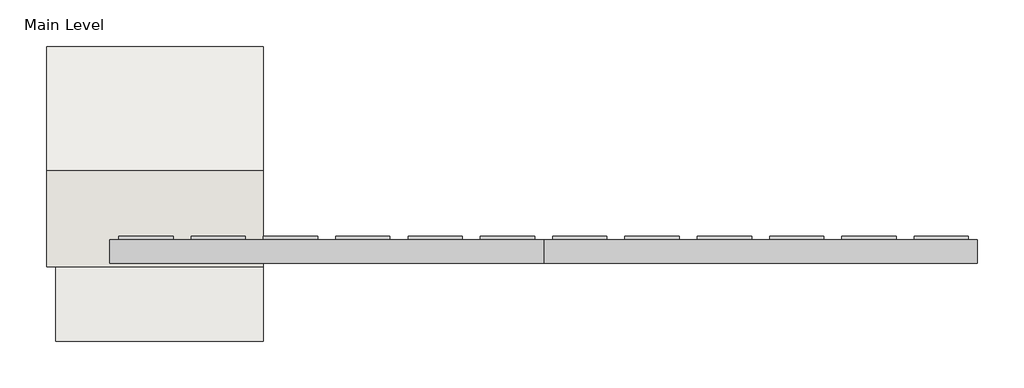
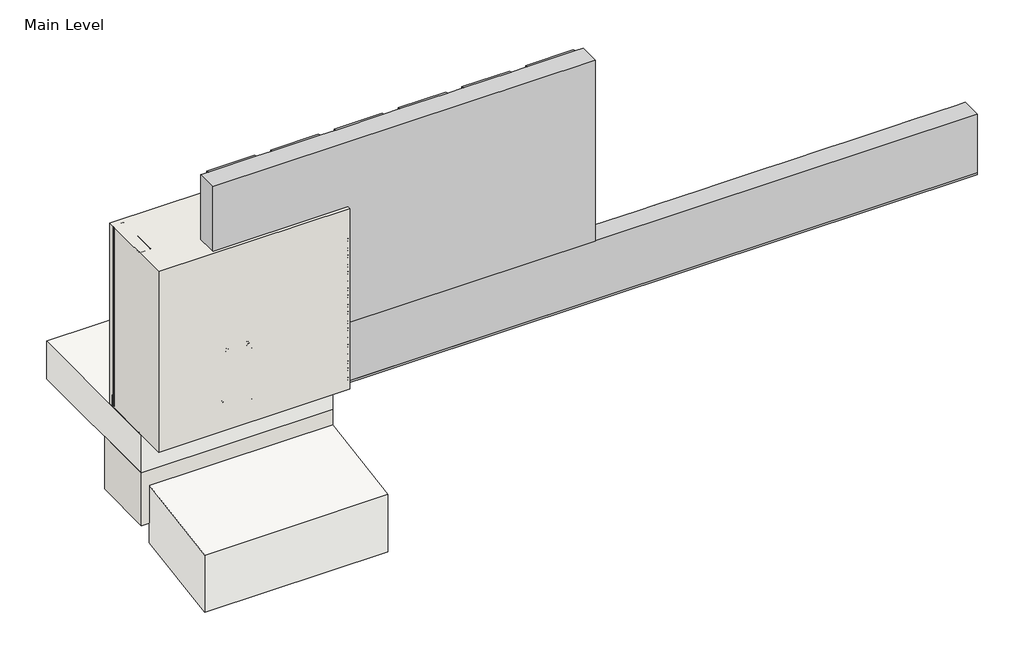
# One storey, incomplete: 10 proxies, 2 slabs, 2 walls.
"""IFC4 building model written with IfcOpenShell, lengths in millimetres."""

from ifc_helpers import new_model, si_unit, frame, origin, origin_with_axes, place, context, project, spatial, polyline, outline, extrude, transform, mapped, element, save
from components import generic_models_31547c53, generic_models_0bbfdc8f, generic_models_1e1ad44f, generic_models_7dd17a53, generic_models_441de798, generic_models_9d0e7a2a, generic_models_8c792c9c, proxy_215900e5, proxy_691c8b69, wood_blocking_c9818c35

model = new_model("IFC4")

# Units and contexts
model_context = context("Model", 3, world=origin())
ifc_project = project(units=[si_unit("LENGTHUNIT", "METRE", prefix="MILLI")], contexts=[model_context])

# Site, building, storey
site = spatial("IfcSite", under=ifc_project)
building = spatial("IfcBuilding", under=site)
storey = spatial("IfcBuildingStorey", under=building, Name="Main Level", Elevation=0.0)

# Proxies
placement = place(None, origin())
generic_models_shape = generic_models_31547c53(model_context)
element("IfcBuildingElementProxy", 1, Name="Durabond Generic Model Sealant Vent : Durabond Generic Model Sealant Vent", ObjectType="Durabond Generic Model Sealant Vent : Durabond Generic Model Sealant Vent", at=placement, inside=storey, context=model_context, shape_type="MappedRepresentation", body=[
    mapped(generic_models_shape, transform((26865.4101773, 546.8432813, 8.5594788), x_axis=(1.0, 0.0, 0.0), y_axis=(0.0, 0.08715574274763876, -0.9961946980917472), z_axis=(0.0, 0.9961946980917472, 0.08715574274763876))),
])
generic_models_2_shape = generic_models_0bbfdc8f(model_context)
generic_models_3_shape = generic_models_1e1ad44f(model_context)
generic_models_4_shape = generic_models_7dd17a53(model_context)
generic_models_5_shape = generic_models_441de798(model_context)
element("IfcBuildingElementProxy", 2, Name="CRAi Generic Model Mesh Piece Face Based : CRAi Generic Model Mesh Piece Face Based", ObjectType="CRAi Generic Model Mesh Piece Face Based : CRAi Generic Model Mesh Piece Face Based", at=placement, inside=storey, context=model_context, shape_type="MappedRepresentation", body=[
    mapped(generic_models_2_shape, transform((26933.6726773, 541.9066297, 261.6963215), x_axis=(-1.0, 0.0, 0.0), y_axis=(0.0, 0.0, -1.0), z_axis=(0.0, -1.0, 0.0))),
    mapped(generic_models_3_shape, transform((26933.6726773, 541.9066297, 261.6963215), x_axis=(-1.0, 0.0, 0.0), y_axis=(0.0, 0.0, -1.0), z_axis=(0.0, -1.0, 0.0))),
    mapped(generic_models_4_shape, transform((26933.6726773, 541.9066297, 261.6963215), x_axis=(-1.0, 0.0, 0.0), y_axis=(0.0, 0.0, -1.0), z_axis=(0.0, -1.0, 0.0))),
    mapped(generic_models_5_shape, transform((26933.6726773, 541.9066297, 261.6963215), x_axis=(-1.0, 0.0, 0.0), y_axis=(0.0, 0.0, -1.0), z_axis=(0.0, -1.0, 0.0))),
])
generic_models_6_shape = generic_models_9d0e7a2a(model_context)
element("IfcBuildingElementProxy", 3, Name="CRAi Generic Model Metal Stud Array : CRAi Generic Model Metal Stud Array", ObjectType="CRAi Generic Model Metal Stud Array : CRAi Generic Model Metal Stud Array", at=placement, inside=storey, context=model_context, shape_type="MappedRepresentation", body=[
    mapped(generic_models_6_shape, transform((26692.3726773, 719.7066297, 6.35), x_axis=(-1.0, 0.0, 0.0), y_axis=(0.0, -1.0, 0.0), z_axis=(0.0, 0.0, 1.0))),
])
generic_models_7_shape = generic_models_8c792c9c(model_context)
element("IfcBuildingElementProxy", 4, Name="Durabond Generic Model Screw w Standard Wall Plate : Durabond Generic Model Screw w Standard Wall Plate", ObjectType="Durabond Generic Model Screw w Standard Wall Plate : Durabond Generic Model Screw w Standard Wall Plate", at=placement, inside=storey, context=model_context, shape_type="MappedRepresentation", body=[
    mapped(generic_models_7_shape, transform((26781.2726773, 544.2878797, 85.242643), x_axis=(1.0, 0.0, 0.0), y_axis=(0.0, 0.0, 1.0), z_axis=(0.0, -1.0, 0.0))),
])
element("IfcBuildingElementProxy", 5, Name="Durabond Generic Model Screw w Standard Wall Plate : Durabond Generic Model Screw w Standard Wall Plate", ObjectType="Durabond Generic Model Screw w Standard Wall Plate : Durabond Generic Model Screw w Standard Wall Plate", at=placement, inside=storey, context=model_context, shape_type="MappedRepresentation", body=[
    mapped(generic_models_7_shape, transform((26781.2726773, 544.2878797, 256.692643), x_axis=(1.0, 0.0, 0.0), y_axis=(0.0, 0.0, 1.0), z_axis=(0.0, -1.0, 0.0))),
])
element("IfcBuildingElementProxy", 6, Name="Durabond Generic Model Screw w Standard Wall Plate : Durabond Generic Model Screw w Standard Wall Plate", ObjectType="Durabond Generic Model Screw w Standard Wall Plate : Durabond Generic Model Screw w Standard Wall Plate", at=placement, inside=storey, context=model_context, shape_type="MappedRepresentation", body=[
    mapped(generic_models_7_shape, transform((26703.4851773, 547.4628797, 85.242643), x_axis=(1.0, 0.0, 0.0), y_axis=(0.0, 0.0, 1.0), z_axis=(0.0, -1.0, 0.0))),
])
element("IfcBuildingElementProxy", 7, Name="Durabond Generic Model Screw w Standard Wall Plate : Durabond Generic Model Screw w Standard Wall Plate", ObjectType="Durabond Generic Model Screw w Standard Wall Plate : Durabond Generic Model Screw w Standard Wall Plate", at=placement, inside=storey, context=model_context, shape_type="MappedRepresentation", body=[
    mapped(generic_models_7_shape, transform((26716.1851773, 547.4628797, 256.692643), x_axis=(1.0, 0.0, 0.0), y_axis=(0.0, 0.0, 1.0), z_axis=(0.0, -1.0, 0.0))),
])
proxy_shape = proxy_215900e5(model_context)
element("IfcBuildingElementProxy", 8, Name="Durabond Generic Model Insulite Select Extruded Insulation Board : 3\"", ObjectType="Durabond Generic Model Insulite Select Extruded Insulation Board : 3\"", at=placement, inside=storey, context=model_context, shape_type="MappedRepresentation", body=[
    mapped(proxy_shape, transform((27276.5726773, 624.4566297, 523.392643), x_axis=(1.0, 0.0, 0.0), y_axis=(0.0, 0.0, 1.0), z_axis=(0.0, -1.0, 0.0))),
])
proxy_2_shape = proxy_691c8b69(model_context)
element("IfcBuildingElementProxy", 9, Name="Durabond Generic Model Insulite Select Extruded Vent Board : 3\"", ObjectType="Durabond Generic Model Insulite Select Extruded Vent Board : 3\"", at=placement, inside=storey, context=model_context, shape_type="MappedRepresentation", body=[
    mapped(proxy_2_shape, transform((27886.1726773, 624.4566297, 116.992643), x_axis=(1.0, 0.0, 0.0), y_axis=(0.0, 0.0, 1.0), z_axis=(0.0, -1.0, 0.0))),
])
wood_blocking_shape = wood_blocking_c9818c35(model_context)
element("IfcBuildingElementProxy", 10, Name="CRAi Generic Model Line Based Metal Framing Track : Wood Blocking", ObjectType="CRAi Generic Model Line Based Metal Framing Track : Wood Blocking", at=placement, inside=storey, context=model_context, shape_type="MappedRepresentation", body=[
    mapped(wood_blocking_shape, transform((26489.1726773, 643.5066297, 0.0), x_axis=(1.0, 0.0, 0.0), y_axis=(0.0, 1.0, 0.0), z_axis=(0.0, 0.0, 1.0))),
])

# Slabs
element("IfcSlab", 11, ObjectType="Durabond Floor Concrete 5\"", at=placement, inside=storey, context=model_context, shape_type="SweptSolid", body=[
    extrude(outline(polyline([(27098.7726773, 633.9816297), (26489.1726773, 633.9816297), (26489.1726773, 1157.8566297), (27098.7726773, 1157.8566297), (27098.7726773, 633.9816297)])), frame((0.0, 0.0, -127.0), z_axis=(0.0, 0.0, 1.0), x_axis=(1.0, 0.0, 0.0)), (0.0, 0.0, 1.0), 127.0),
])
element("IfcSlab", 12, ObjectType="dIRT", at=placement, inside=storey, context=model_context, shape_type="SweptSolid", body=[
    extrude(outline(polyline([(633.9816297, -370.9277103), (329.1816297, -421.7277103), (329.1816297, -228.6), (633.9816297, -177.8), (633.9816297, -370.9277103)])), frame((26514.5726773, 0.0, 0.0), z_axis=(1.0, 0.0, 0.0), x_axis=(0.0, 1.0, 0.0)), (0.0, 0.0, 1.0), 584.2),
])

# Walls
element("IfcWall", 13, ObjectType="189mm (7.5”) EIFS Field Applied on Mtl. Stud Layer - 50mm Grooved Insulation Board Metal Stud Wall(AirStop) 2", at=placement, inside=storey, context=model_context, shape_type="SweptSolid", body=[
    extrude(outline(polyline([(27098.7726773, 538.7316297), (26489.1726773, 538.7316297), (26489.1726773, 808.6066297), (27098.7726773, 808.6066297), (27098.7726773, 538.7316297)])), origin_with_axes(), (0.0, 0.0, 1.0), 609.6),
])
element("IfcWall", 14, ObjectType="CRAi Generic 8\"", at=placement, inside=storey, context=model_context, shape_type="SweptSolid", body=[
    extrude(outline(polyline([(27098.7726773, 633.9816297), (26489.1726773, 633.9816297), (26489.1726773, 837.1816297), (27098.7726773, 837.1816297), (27098.7726773, 633.9816297)])), frame((0.0, 0.0, -304.8), z_axis=(0.0, 0.0, 1.0), x_axis=(1.0, 0.0, 0.0)), (0.0, 0.0, 1.0), 177.8),
])

save(model, "model.ifc")
